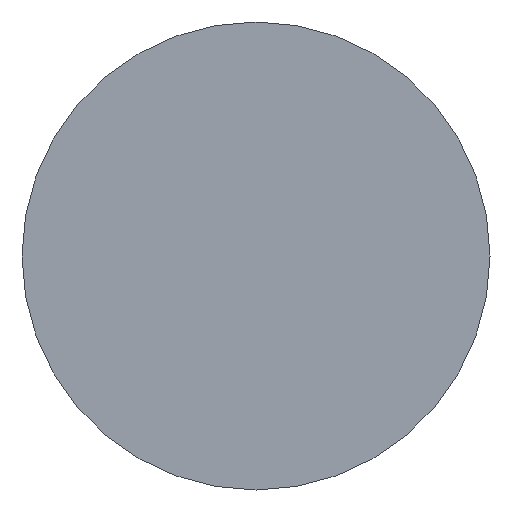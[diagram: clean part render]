
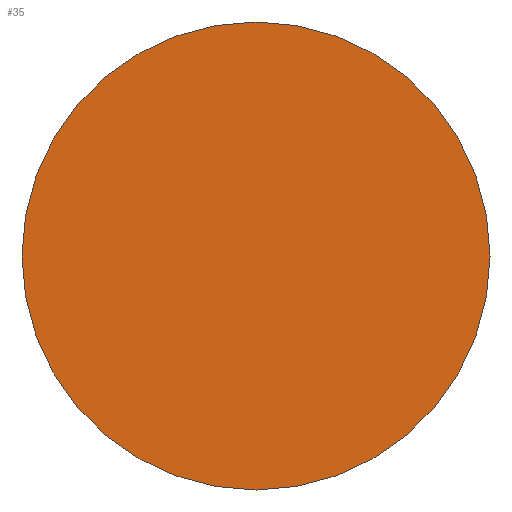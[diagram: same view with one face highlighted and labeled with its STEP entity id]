
A CAD part, front view. The second image highlights one B-rep face of the part: STEP entity #35.
In plain terms, the highlighted planar face has unit normal (0, -1, 0).
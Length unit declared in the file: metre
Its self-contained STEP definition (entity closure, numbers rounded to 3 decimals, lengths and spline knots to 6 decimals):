
#13=PLANE('',#53);
#17=ORIENTED_EDGE('',*,*,#19,.F.);
#19=EDGE_CURVE('',#21,#21,#23,.F.);
#21=VERTEX_POINT('',#71);
#23=CIRCLE('',#51,0.00125);
#27=EDGE_LOOP('',(#17));
#31=FACE_BOUND('',#27,.T.);
#35=ADVANCED_FACE('',(#31),#13,.T.);
#51=AXIS2_PLACEMENT_3D('',#70,#60,#61);
#53=AXIS2_PLACEMENT_3D('',#73,#64,#65);
#60=DIRECTION('',(0.,-1.,0.));
#61=DIRECTION('',(0.,0.,-1.));
#64=DIRECTION('',(0.,-1.,0.));
#65=DIRECTION('',(1.,0.,0.));
#70=CARTESIAN_POINT('',(0.007695,-0.006933,0.00515));
#71=CARTESIAN_POINT('',(0.007695,-0.006933,0.0039));
#73=CARTESIAN_POINT('',(0.017708,-0.006933,0.006863));
